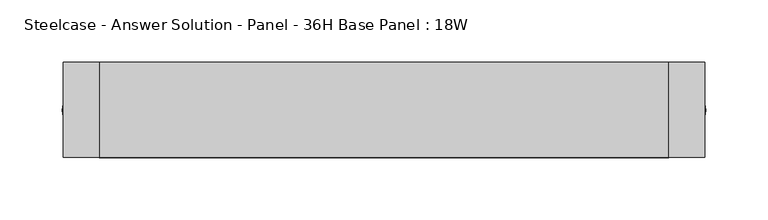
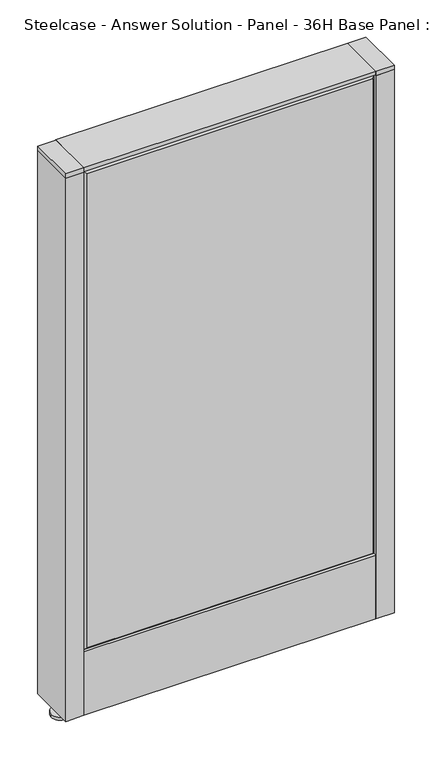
"""IFC4 building model written with IfcOpenShell, lengths in millimetres: furniture geometry, Steelcase - Answer Solution - Panel - 36H Base Panel : 18W."""

import ifcopenshell
import ifcopenshell.guid

model = None  # the IFC model being written
_history = None  # IfcOwnerHistory: only IFC2X3 demands one
_inside = {}  # id of a spatial element -> (the spatial element, [elements in it])
_under = {}  # id of a project, library or spatial element -> (it, [spatial elements below it])
_declared = {}  # id of a project -> (the project, [libraries it declares])
_typed = {}  # id of a type object -> (the type object, [elements of that type])
_made_of = {}  # id of a material, layer set ... -> (it, [elements and type objects made of it])


def new_model(schema):
    """Start an empty IFC model of exactly this schema.

    Asked for "IFC4X3", IfcOpenShell would pick the latest addendum, in which some entities
    have other attributes; the version numbers below select the first issue.
    IFC2X3 requires an IfcOwnerHistory on every rooted entity: one is made here for all.
    """
    global model, _history
    if schema == "IFC4X3":
        model = ifcopenshell.file(schema_version=(4, 3, 0, 0))
    else:
        model = ifcopenshell.file(schema=schema)
    _inside.clear()
    _under.clear()
    _declared.clear()
    _typed.clear()
    _made_of.clear()
    _history = None
    if model.schema == "IFC2X3":
        org = make("IfcOrganization", Name="unknown")
        user = make(
            "IfcPersonAndOrganization",
            ThePerson=make("IfcPerson", FamilyName="unknown"),
            TheOrganization=org,
        )
        app = make(
            "IfcApplication",
            ApplicationDeveloper=org,
            Version="unknown",
            ApplicationFullName="unknown",
            ApplicationIdentifier="unknown",
        )
        _history = make(
            "IfcOwnerHistory",
            OwningUser=user,
            OwningApplication=app,
            ChangeAction="ADDED",
            CreationDate=0,
        )
    return model


def make(cls, **values):
    """One entity of the class cls with the attributes given. An attribute that is None is left unset."""
    return model.create_entity(
        cls, **{name: value for name, value in values.items() if value is not None}
    )


def rooted(cls, **values):
    """An entity with a GlobalId (a new one), such as an element, a storey or a relation."""
    return make(cls, GlobalId=ifcopenshell.guid.new(), OwnerHistory=_history, **values)


def si_unit(unit_type, name, prefix=None):
    """IfcSIUnit, for example si_unit("LENGTHUNIT", "METRE", prefix="MILLI")."""
    return make("IfcSIUnit", UnitType=unit_type, Prefix=prefix, Name=name)


def assignment(units):
    """IfcUnitAssignment: the units of a project."""
    return None if units is None else make("IfcUnitAssignment", Units=units)


def point(xyz):
    """IfcCartesianPoint."""
    return None if xyz is None else make("IfcCartesianPoint", Coordinates=xyz)


def direction(xyz):
    """IfcDirection."""
    return None if xyz is None else make("IfcDirection", DirectionRatios=xyz)


def frame(location, z_axis=None, x_axis=None):
    """IfcAxis2Placement3D, a coordinate frame: its origin and axes. An axis left out is left unset."""
    return make(
        "IfcAxis2Placement3D",
        Location=point(location),
        Axis=direction(z_axis),
        RefDirection=direction(x_axis),
    )


def frame_2d(location, x_axis=None):
    """IfcAxis2Placement2D, a coordinate frame in the plane: its origin and x axis."""
    return make(
        "IfcAxis2Placement2D", Location=point(location), RefDirection=direction(x_axis)
    )


def origin():
    """The frame at (0, 0, 0) with its axes left unset."""
    return frame((0.0, 0.0, 0.0))


def place(relative_to, where):
    """IfcLocalPlacement: puts the frame where relative to a parent placement (None: the world)."""
    return make(
        "IfcLocalPlacement", PlacementRelTo=relative_to, RelativePlacement=where
    )


def context(
    kind, dimensions, precision=None, world=None, true_north=None, identifier=None
):
    """IfcGeometricRepresentationContext, for example the 3D "Model" context."""
    return make(
        "IfcGeometricRepresentationContext",
        ContextIdentifier=identifier,
        ContextType=kind,
        CoordinateSpaceDimension=dimensions,
        Precision=precision,
        WorldCoordinateSystem=world,
        TrueNorth=true_north,
    )


def project(units=None, contexts=None):
    """IfcProject with its units and contexts."""
    return rooted(
        "IfcProject",
        Name="project",
        RepresentationContexts=contexts,
        UnitsInContext=assignment(units),
    )


def spatial(cls, under=None, at=None, **own):
    """A site, building, storey or space (cls), placed at a placement, below another one or the project."""
    s = rooted(cls, ObjectPlacement=at, **own)
    if under is not None:
        _under.setdefault(under.id(), (under, []))[1].append(s)
    return s


def polyline(points):
    """IfcPolyline through the points."""
    return make("IfcPolyline", Points=[point(p) for p in points])


def circle_curve(where, radius):
    """IfcCircle in the frame where."""
    return make("IfcCircle", Position=where, Radius=radius)


def trimmed(basis, trim1, trim2, sense, master):
    """IfcTrimmedCurve: the piece of a basis curve between two trims."""
    return make(
        "IfcTrimmedCurve",
        BasisCurve=basis,
        Trim1=trim1,
        Trim2=trim2,
        SenseAgreement=sense,
        MasterRepresentation=master,
    )


def segment(curve, same_sense, transition):
    """IfcCompositeCurveSegment."""
    return make(
        "IfcCompositeCurveSegment",
        Transition=transition,
        SameSense=same_sense,
        ParentCurve=curve,
    )


def composite_curve(segments, self_intersect=None):
    """IfcCompositeCurve: segments joined end to end."""
    return make("IfcCompositeCurve", Segments=segments, SelfIntersect=self_intersect)


def outline(outer, holes=None, kind="AREA"):
    """IfcArbitraryClosedProfileDef: a profile drawn as a closed curve; with holes, ...WithVoids."""
    if holes is None:
        return make("IfcArbitraryClosedProfileDef", ProfileType=kind, OuterCurve=outer)
    return make(
        "IfcArbitraryProfileDefWithVoids",
        ProfileType=kind,
        OuterCurve=outer,
        InnerCurves=holes,
    )


def extrude(swept, where, along, depth):
    """IfcExtrudedAreaSolid: the profile swept, set in the frame where, extruded along a direction by depth."""
    return make(
        "IfcExtrudedAreaSolid",
        SweptArea=swept,
        Position=where,
        ExtrudedDirection=direction(along),
        Depth=depth,
    )


def faces_of(points, faces, orient=None, outer=None):
    """IfcFace entities. A face is a list of loops; a loop is a list of indices into points, from 0.

    orient and outer hold one flag for each loop. By default every Orientation is true, the
    first loop of a face is its IfcFaceOuterBound and the others are IfcFaceBound.
    """
    made = []
    for i, loops in enumerate(faces):
        bounds = []
        for j, loop in enumerate(loops):
            is_outer = j == 0 if outer is None else outer[i][j]
            bounds.append(
                make(
                    "IfcFaceOuterBound" if is_outer else "IfcFaceBound",
                    Bound=make("IfcPolyLoop", Polygon=[points[k] for k in loop]),
                    Orientation=True if orient is None else orient[i][j],
                )
            )
        made.append(make("IfcFace", Bounds=bounds))
    return made


def faceted_brep(points, faces, orient=None, outer=None, voids=None):
    """IfcFacetedBrep: a solid bounded by flat faces; with voids (closed shells), ...WithVoids."""
    shared = [point(p) for p in points]
    hull = make("IfcClosedShell", CfsFaces=faces_of(shared, faces, orient, outer))
    if voids is None:
        return make("IfcFacetedBrep", Outer=hull)
    return make(
        "IfcFacetedBrepWithVoids",
        Outer=hull,
        Voids=[
            make(cls, CfsFaces=faces_of(shared, fs, o, b)) for cls, fs, o, b in voids
        ],
    )


def shape(context_of_items, identifier, shape_type, items):
    """IfcShapeRepresentation: the items that make up one representation, for example the "Body"."""
    return make(
        "IfcShapeRepresentation",
        ContextOfItems=context_of_items,
        RepresentationIdentifier=identifier,
        RepresentationType=shape_type,
        Items=items,
    )


def source(mapping_origin, context_of_items, identifier, shape_type, items):
    """IfcRepresentationMap: a shape defined once, which mapped items show again and again."""
    return make(
        "IfcRepresentationMap",
        MappingOrigin=mapping_origin,
        MappedRepresentation=shape(context_of_items, identifier, shape_type, items),
    )


def transform(
    local_origin,
    x_axis=None,
    y_axis=None,
    z_axis=None,
    scale=None,
    scale2=None,
    scale3=None,
    uniform=True,
):
    """IfcCartesianTransformationOperator3D, or its non-uniform kind. x_axis, y_axis, z_axis: its Axis1, 2, 3."""
    if uniform:
        return make(
            "IfcCartesianTransformationOperator3D",
            Axis1=direction(x_axis),
            Axis2=direction(y_axis),
            LocalOrigin=point(local_origin),
            Scale=scale,
            Axis3=direction(z_axis),
        )
    return make(
        "IfcCartesianTransformationOperator3DnonUniform",
        Axis1=direction(x_axis),
        Axis2=direction(y_axis),
        LocalOrigin=point(local_origin),
        Scale=scale,
        Axis3=direction(z_axis),
        Scale2=scale2,
        Scale3=scale3,
    )


def mapped(mapping_source, mapping_target):
    """IfcMappedItem: shows the shape of a source again, moved by a transform."""
    return make(
        "IfcMappedItem", MappingSource=mapping_source, MappingTarget=mapping_target
    )


def made_of(thing, what):
    """Note that an element or type object is made of a material, layer set ...; save() writes the relation."""
    if what is not None:
        _made_of.setdefault(what.id(), (what, []))[1].append(thing)
    return thing


def element(
    cls,
    number,
    at=None,
    inside=None,
    cuts=None,
    type_object=None,
    material=None,
    context=None,
    identifier="Body",
    shape_type=None,
    held_by="IfcProductDefinitionShape",
    body=None,
    shapes=None,
    **own,
):
    """One element of the class cls, such as IfcWall. Its Tag is "e" and its number.

    at: its placement. inside: the storey or other place that contains it. cuts: it is an
    opening in that element (IfcRelVoidsElement). A single representation is given by context,
    identifier, shape_type and body (its items); several are given by shapes. held_by: the class
    of the entity that holds the representations. save() writes the other relations.
    """
    e = rooted(cls, Tag="e%d" % number, ObjectPlacement=at, **own)
    if body is not None:
        shapes = [shape(context, identifier, shape_type, body)]
    if shapes is not None:
        e.Representation = make(held_by, Representations=shapes)
    if inside is not None:
        _inside.setdefault(inside.id(), (inside, []))[1].append(e)
    if cuts is not None:
        rooted(
            "IfcRelVoidsElement", RelatingBuildingElement=cuts, RelatedOpeningElement=e
        )
    if type_object is not None:
        _typed.setdefault(type_object.id(), (type_object, []))[1].append(e)
    return made_of(e, material)


def aggregate(whole, parts):
    """IfcRelAggregates: a whole, such as a stair, and the parts it consists of."""
    return rooted("IfcRelAggregates", RelatingObject=whole, RelatedObjects=parts)


def save(model, path):
    """Write the relations noted so far, then the file.

    IfcRelAggregates (storeys below a building ...), IfcRelContainedInSpatialStructure (elements
    in a storey), IfcRelDefinesByType, IfcRelAssociatesMaterial and IfcRelDeclares: one each for
    every whole, place, type object, material and project.
    """
    for whole, parts in _under.values():
        aggregate(whole, parts)
    for where, things in _inside.values():
        rooted(
            "IfcRelContainedInSpatialStructure",
            RelatedElements=things,
            RelatingStructure=where,
        )
    for kind, things in _typed.values():
        rooted("IfcRelDefinesByType", RelatedObjects=things, RelatingType=kind)
    for what, things in _made_of.values():
        rooted("IfcRelAssociatesMaterial", RelatedObjects=things, RelatingMaterial=what)
    for by, libraries in _declared.values():
        rooted("IfcRelDeclares", RelatingContext=by, RelatedDefinitions=libraries)
    model.write(path)


def steelcase_answer_solution_panel_36h_base_panel_18w_0cce74d6(model_context):
    return source(origin(), model_context, "Body", "SolidModel", [
        extrude(outline(composite_curve([segment(trimmed(circle_curve(frame_2d((242.824, 0.0320214)), 5.08), [point((247.904, 0.0320214))], [point((237.744, 0.0320214))], False, "CARTESIAN"), True, "CONTINUOUS"), segment(trimmed(circle_curve(frame_2d((242.824, 0.0320214)), 5.08), [point((237.744, 0.0320214))], [point((247.904, 0.0320214))], False, "CARTESIAN"), True, "CONTINUOUS")], self_intersect=False)), frame((0.0, 0.0, 5.0799671), z_axis=(0.0, 0.0, 1.0), x_axis=(1.0, 0.0, 0.0)), (0.0, 0.0, 1.0), 10.414),
        extrude(outline(composite_curve([segment(trimmed(circle_curve(frame_2d((242.824, 0.0320214)), 15.24), [point((258.064, 0.0320214))], [point((227.584, 0.0320214))], False, "CARTESIAN"), True, "CONTINUOUS"), segment(trimmed(circle_curve(frame_2d((242.824, 0.0320214)), 15.24), [point((227.584, 0.0320214))], [point((258.064, 0.0320214))], False, "CARTESIAN"), True, "CONTINUOUS")], self_intersect=False)), frame((0.0, 0.0, -3.29e-05), z_axis=(0.0, 0.0, 1.0), x_axis=(1.0, 0.0, 0.0)), (0.0, 0.0, 1.0), 5.08),
        extrude(outline(polyline([(257.175, 38.1320408), (257.175, -38.0679592), (228.6, -38.0679592), (228.6, 38.1320408), (257.175, 38.1320408)])), frame((0.0, 0.0, 913.4348), z_axis=(0.0, 0.0, 1.0), x_axis=(1.0, 0.0, 0.0)), (0.0, 0.0, 1.0), 7.3151671),
        extrude(outline(polyline([(257.175, 38.1320408), (257.175, -38.0679592), (228.6, -38.0679592), (228.6, 38.1320408), (257.175, 38.1320408)])), frame((0.0, 0.0, 15.4939671), z_axis=(0.0, 0.0, 1.0), x_axis=(1.0, 0.0, 0.0)), (0.0, 0.0, 1.0), 897.9408329),
        extrude(outline(composite_curve([segment(trimmed(circle_curve(frame_2d((-242.824, -0.0320214)), 5.08), [point((-247.904, -0.0320214))], [point((-237.744, -0.0320214))], False, "CARTESIAN"), True, "CONTINUOUS"), segment(trimmed(circle_curve(frame_2d((-242.824, -0.0320214)), 5.08), [point((-237.744, -0.0320214))], [point((-247.904, -0.0320214))], False, "CARTESIAN"), True, "CONTINUOUS")], self_intersect=False)), frame((0.0, 0.0, 5.0799671), z_axis=(0.0, 0.0, 1.0), x_axis=(1.0, 0.0, 0.0)), (0.0, 0.0, 1.0), 10.414),
        extrude(outline(composite_curve([segment(trimmed(circle_curve(frame_2d((-242.824, -0.0320214)), 15.24), [point((-258.064, -0.0320214))], [point((-227.584, -0.0320214))], False, "CARTESIAN"), True, "CONTINUOUS"), segment(trimmed(circle_curve(frame_2d((-242.824, -0.0320214)), 15.24), [point((-227.584, -0.0320214))], [point((-258.064, -0.0320214))], False, "CARTESIAN"), True, "CONTINUOUS")], self_intersect=False)), frame((0.0, 0.0, -3.29e-05), z_axis=(0.0, 0.0, 1.0), x_axis=(1.0, 0.0, 0.0)), (0.0, 0.0, 1.0), 5.08),
        extrude(outline(polyline([(-257.175, -38.1320408), (-257.175, 38.0679592), (-228.6, 38.0679592), (-228.6, -38.1320408), (-257.175, -38.1320408)])), frame((0.0, 0.0, 913.4348), z_axis=(0.0, 0.0, 1.0), x_axis=(1.0, 0.0, 0.0)), (0.0, 0.0, 1.0), 7.3151671),
        extrude(outline(polyline([(-257.175, -38.1320408), (-257.175, 38.0679592), (-228.6, 38.0679592), (-228.6, -38.1320408), (-257.175, -38.1320408)])), frame((0.0, 0.0, 15.4939671), z_axis=(0.0, 0.0, 1.0), x_axis=(1.0, 0.0, 0.0)), (0.0, 0.0, 1.0), 897.9408329),
        faceted_brep([(223.774, 38.1635011, 909.574), (223.774, 38.1635011, 125.476), (-223.774, 38.1635011, 125.476), (-223.774, 38.1635011, 909.574), (228.6, 33.3375011, 914.4), (-228.6, 33.3375011, 914.4), (-228.6, 33.3375011, 120.65), (228.6, 33.3375011, 120.65)], [[[0, 1, 2, 3]], [[4, 5, 6, 7]], [[4, 0, 3, 5]], [[5, 3, 2, 6]], [[6, 2, 1, 7]], [[7, 1, 0, 4]]]),
        faceted_brep([(223.774, -38.1635011, 909.574), (-223.774, -38.1635011, 909.574), (-223.774, -38.1635011, 125.476), (223.774, -38.1635011, 125.476), (228.6, -33.3375011, 914.4), (228.6, -33.3375011, 120.65), (-228.6, -33.3375011, 120.65), (-228.6, -33.3375011, 914.4)], [[[0, 1, 2, 3]], [[4, 5, 6, 7]], [[4, 7, 1, 0]], [[7, 6, 2, 1]], [[6, 5, 3, 2]], [[5, 4, 0, 3]]]),
        extrude(outline(polyline([(228.6, 38.1000194), (228.6, -38.1000194), (-228.6, -38.1000194), (-228.6, 38.1000194), (228.6, 38.1000194)])), frame((0.0, 0.0, 914.4), z_axis=(0.0, 0.0, 1.0), x_axis=(1.0, 0.0, 0.0)), (0.0, 0.0, 1.0), 6.35),
        extrude(outline(polyline([(37.3075215, 119.8575157), (25.4000011, 119.8575157), (25.4000011, 120.65), (38.1000194, 120.65), (38.1000194, 15.494), (37.3075215, 15.494), (37.3075215, 119.8575157)])), frame((-228.6, 0.0, 0.0), z_axis=(1.0, 0.0, 0.0), x_axis=(0.0, 1.0, 0.0)), (0.0, 0.0, 1.0), 457.2),
        extrude(outline(polyline([(-37.3075215, 119.8575157), (-37.3075215, 15.494), (-38.1000194, 15.494), (-38.1000194, 120.65), (-25.4000011, 120.65), (-25.4000011, 119.8575157), (-37.3075215, 119.8575157)])), frame((-228.6, 0.0, 0.0), z_axis=(1.0, 0.0, 0.0), x_axis=(0.0, 1.0, 0.0)), (0.0, 0.0, 1.0), 457.2),
    ])


if __name__ == "__main__":
    model = new_model("IFC4")
    model_context = context("Model", 3, world=origin())
    ifc_project = project(units=[si_unit("LENGTHUNIT", "METRE", prefix="MILLI")], contexts=[model_context])
    site = spatial("IfcSite", under=ifc_project)
    building = spatial("IfcBuilding", under=site)
    placement = place(None, origin())
    steelcase_answer_solution_panel_36h_base_panel_18w_shape = steelcase_answer_solution_panel_36h_base_panel_18w_0cce74d6(model_context)
    element("IfcFurniture", 1, ObjectType="Steelcase - Answer Solution - Panel - 36H Base Panel : 18W", at=placement, inside=building, context=model_context, shape_type="MappedRepresentation", body=[
        mapped(steelcase_answer_solution_panel_36h_base_panel_18w_shape, transform((0.0, 0.0, 0.0), x_axis=(1.0, 0.0, 0.0), y_axis=(0.0, 1.0, 0.0), z_axis=(0.0, 0.0, 1.0))),
    ])
    save(model, "model.ifc")
